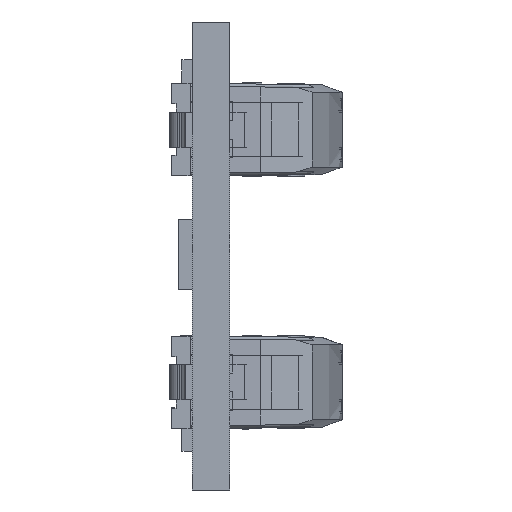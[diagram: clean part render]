
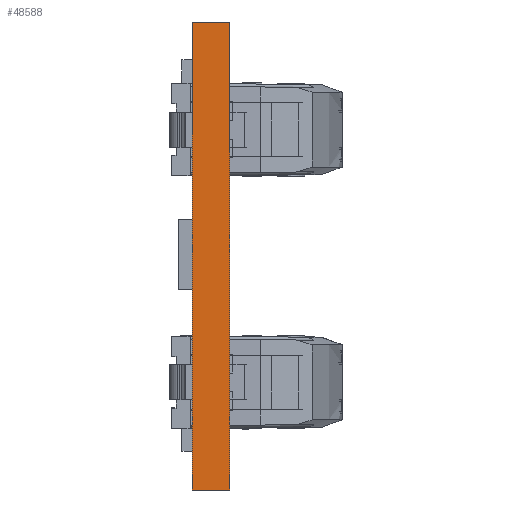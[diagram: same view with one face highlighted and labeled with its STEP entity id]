
A CAD part, left-side view. The second image highlights one B-rep face of the part: STEP entity #48588.
In plain terms, the highlighted planar face has unit normal (-1, 0, 0).
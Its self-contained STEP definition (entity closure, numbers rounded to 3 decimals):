
#348=DIRECTION('',(0.,0.,-1.));
#349=VECTOR('',#348,20.);
#350=CARTESIAN_POINT('',(-139.5,0.,10.));
#351=LINE('',#350,#349);
#3952=DIRECTION('',(0.,0.,-1.));
#3953=VECTOR('',#3952,20.);
#3954=CARTESIAN_POINT('',(-139.5,-1.6,10.));
#3955=LINE('',#3954,#3953);
#3956=DIRECTION('',(0.,1.,0.));
#3957=VECTOR('',#3956,1.6);
#3958=CARTESIAN_POINT('',(-139.5,-1.6,-10.));
#3959=LINE('',#3958,#3957);
#3968=DIRECTION('',(0.,1.,0.));
#3969=VECTOR('',#3968,1.6);
#3970=CARTESIAN_POINT('',(-139.5,-1.6,10.));
#3971=LINE('',#3970,#3969);
#33364=CARTESIAN_POINT('',(-139.5,0.,10.));
#33365=VERTEX_POINT('',#33364);
#33366=CARTESIAN_POINT('',(-139.5,0.,-10.));
#33367=VERTEX_POINT('',#33366);
#43017=CARTESIAN_POINT('',(-139.5,-1.6,-10.));
#43018=VERTEX_POINT('',#43017);
#43019=CARTESIAN_POINT('',(-139.5,-1.6,10.));
#43020=VERTEX_POINT('',#43019);
#48576=CARTESIAN_POINT('',(-139.5,0.,-10.));
#48577=DIRECTION('',(-1.,0.,0.));
#48578=DIRECTION('',(0.,0.,1.));
#48579=AXIS2_PLACEMENT_3D('',#48576,#48577,#48578);
#48580=PLANE('',#48579);
#48581=ORIENTED_EDGE('',*,*,#43513,.F.);
#48583=ORIENTED_EDGE('',*,*,#48582,.F.);
#48584=ORIENTED_EDGE('',*,*,#48330,.T.);
#48585=ORIENTED_EDGE('',*,*,#48563,.T.);
#48586=EDGE_LOOP('',(#48581,#48583,#48584,#48585));
#48587=FACE_OUTER_BOUND('',#48586,.F.);
#43513=EDGE_CURVE('',#33365,#33367,#351,.T.);
#48330=EDGE_CURVE('',#43020,#43018,#3955,.T.);
#48563=EDGE_CURVE('',#43018,#33367,#3959,.T.);
#48582=EDGE_CURVE('',#43020,#33365,#3971,.T.);
#48588=ADVANCED_FACE('',(#48587),#48580,.T.);
